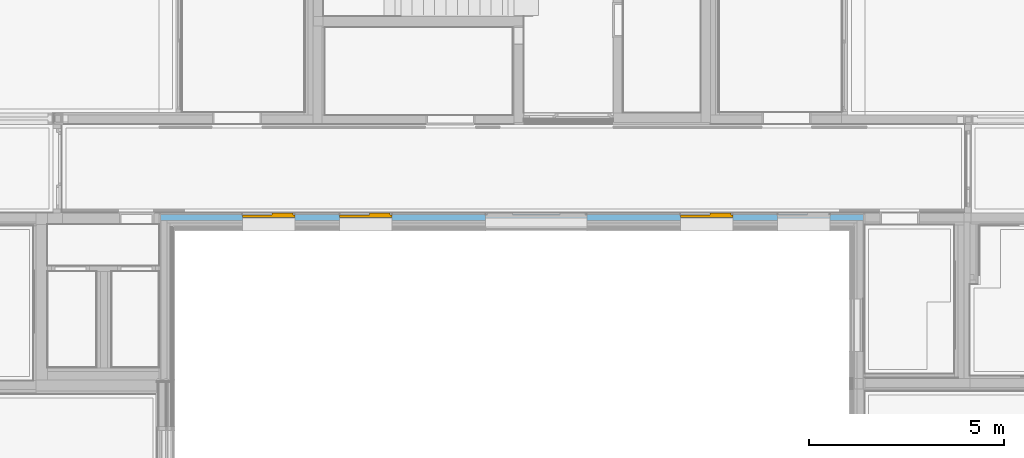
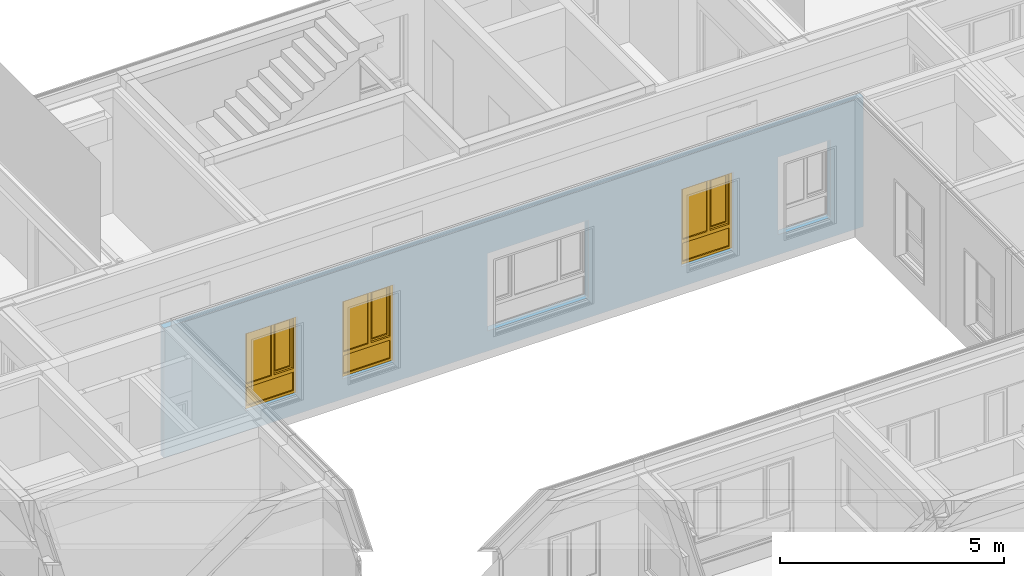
# One storey, part 96 of 222: 3 windows, 5 openings, plus 1 element that does not belong to this part.
"""IFC4 building model written with IfcOpenShell, lengths in metres."""

from ifc_helpers import new_model, entity, si_unit, converted_unit, derived_unit, frame, frame_2d, origin, origin_with_axes, place, context, subcontext, project, spatial, polyline, rectangle, outline, extrude, closed_shell, open_shell, surface_model, source, transform, mapped, material, element, fill, save


model = new_model("IFC4")

# Units and contexts
model_context = context("Model", 3, precision=1e-05, world=origin())
body_context = subcontext(model_context, "Body", "Model", "MODEL_VIEW")
ifc_project = project(units=[si_unit("LENGTHUNIT", "METRE"), si_unit("AREAUNIT", "SQUARE_METRE"), si_unit("VOLUMEUNIT", "CUBIC_METRE"), si_unit("MASSUNIT", "GRAM", prefix="KILO"), converted_unit("PLANEANGLEUNIT", "DEGREE", entity("IfcPlaneAngleMeasure", 0.0174532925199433), si_unit("PLANEANGLEUNIT", "RADIAN"), dimensions=[0, 0, 0, 0, 0, 0, 0]), derived_unit("THERMALTRANSMITTANCEUNIT", [(si_unit("POWERUNIT", "WATT"), 1), (si_unit("THERMODYNAMICTEMPERATUREUNIT", "KELVIN"), -1), (si_unit("LENGTHUNIT", "METRE"), -2)]), derived_unit("VOLUMETRICFLOWRATEUNIT", [(si_unit("LENGTHUNIT", "METRE"), 3), (converted_unit("TIMEUNIT", "hour", entity("IfcTimeMeasure", 3600.0), si_unit("TIMEUNIT", "SECOND"), dimensions=[0, 0, 1, 0, 0, 0, 0]), -1), (si_unit("LENGTHUNIT", "METRE"), -1)])], contexts=[model_context])

# Site, building, storey
site_placement = place(None, origin())
site = spatial("IfcSite", under=ifc_project, at=site_placement, Name="Psychiatrie Neubau Wunstorf", CompositionType="ELEMENT")
building_placement = place(site_placement, origin())
building = spatial("IfcBuilding", under=site, at=building_placement, Name="Neubau H2 Stationsgebäude", CompositionType="ELEMENT")
storey_placement = place(building_placement, frame((0.0, 0.0, 3.6)))
storey = spatial("IfcBuildingStorey", under=building, at=storey_placement, Name="H2 Ebene +1", CompositionType="ELEMENT", Elevation=3.6)

# Wall, openings, windows
ifc_material = material(Name="WA-DL")
wall_placement = place(storey_placement, frame((62.0250000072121, 20.5499980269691, 0.0), z_axis=(0.0, 0.0, 1.0), x_axis=(-1.0, 8.06200289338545e-16, 0.0)))
wall = element("IfcWall", 1, at=wall_placement, inside=storey, material=ifc_material, context=body_context, shape_type="SweptSolid", body=[
    extrude(rectangle(XDim=18.0500000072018, YDim=0.16, at=frame_2d((9.02500000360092, 0.08), x_axis=(1.0, 0.0))), origin_with_axes(), (0.0, 0.0, 1.0), 3.55),
])
opening_1_placement = place(wall_placement, frame((15.9524000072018, 0.159999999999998, 0.55), z_axis=(0.0, -1.0, 0.0), x_axis=(0.0, 0.0, 1.0)))
opening_1 = element("IfcOpeningElement", 2, at=opening_1_placement, cuts=wall, Name="Fensteröffnung", ObjectType="Opening", context=body_context, shape_type="SweptSolid", body=[
    extrude(outline(polyline([(2.115, 1.35), (2.115, 0.0), (0.0, 0.0), (0.0, 1.35), (2.115, 1.35)])), origin_with_axes(), (0.0, 0.0, 1.0), 0.159999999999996),
])
opening_2_placement = place(wall_placement, frame((13.4524000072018, 0.159999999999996, 0.55), z_axis=(0.0, -1.0, 0.0), x_axis=(0.0, 0.0, 1.0)))
opening_2 = element("IfcOpeningElement", 3, at=opening_2_placement, cuts=wall, Name="Fensteröffnung", ObjectType="Opening", context=body_context, shape_type="SweptSolid", body=[
    extrude(outline(polyline([(2.115, 1.35), (2.115, 0.0), (0.0, 0.0), (0.0, 1.35), (2.115, 1.35)])), origin_with_axes(), (0.0, 0.0, 1.0), 0.159999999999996),
])
opening_3_placement = place(wall_placement, frame((4.70240000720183, 0.159999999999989, 0.55), z_axis=(0.0, -1.0, 0.0), x_axis=(0.0, 0.0, 1.0)))
opening_3 = element("IfcOpeningElement", 4, at=opening_3_placement, cuts=wall, Name="Fensteröffnung", ObjectType="Opening", context=body_context, shape_type="SweptSolid", body=[
    extrude(outline(polyline([(2.115, 1.35), (2.115, 0.0), (0.0, 0.0), (0.0, 1.35), (2.115, 1.35)])), origin_with_axes(), (0.0, 0.0, 1.0), 0.159999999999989),
])
opening_4_placement = place(wall_placement, frame((2.20240000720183, 0.159999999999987, 0.55), z_axis=(0.0, -1.0, 0.0), x_axis=(0.0, 0.0, 1.0)))
element("IfcOpeningElement", 5, at=opening_4_placement, cuts=wall, Name="Fensteröffnung", ObjectType="Opening", context=body_context, shape_type="SweptSolid", body=[
    extrude(outline(polyline([(2.115, 1.35), (2.115, 0.0), (0.0, 0.0), (0.0, 1.35), (2.115, 1.35)])), origin_with_axes(), (0.0, 0.0, 1.0), 0.159999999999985),
])
opening_5_placement = place(wall_placement, frame((9.70240000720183, 0.159999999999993, 0.55), z_axis=(0.0, -1.0, 0.0), x_axis=(0.0, 0.0, 1.0)))
element("IfcOpeningElement", 6, at=opening_5_placement, cuts=wall, Name="Fensteröffnung", ObjectType="Opening", context=body_context, shape_type="SweptSolid", body=[
    extrude(outline(polyline([(2.115, 2.6), (2.115, 0.0), (0.0, 0.0), (0.0, 2.6), (2.115, 2.6)])), origin_with_axes(), (0.0, 0.0, 1.0), 0.159999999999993),
])
shared_shape_1 = source(origin_with_axes(), body_context, "Body", "SurfaceModel", [
    surface_model("IfcShellBasedSurfaceModel", [(0.0, 0.0, 2.115), (0.07, 0.0, 2.115), (0.07, 0.0, 0.0), (0.0, 0.0, 0.0), (0.0, 0.0699999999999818, 0.0), (0.07, 0.0699999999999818, 0.0), (0.07, 0.0699999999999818, 2.115), (0.0, 0.0699999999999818, 2.115)], [closed_shell([[[0, 1, 2, 3]], [[4, 5, 6, 7]], [[3, 4, 7, 0]], [[2, 5, 4, 3]], [[1, 6, 5, 2]], [[0, 7, 6, 1]]], orient=[[False], [False], [False], [False], [False], [False]])]),
    surface_model("IfcShellBasedSurfaceModel", [(1.28, 0.0, 2.115), (1.35, 0.0, 2.115), (1.35, 0.0, 0.0), (1.28, 0.0, 0.0), (1.28, 0.0699999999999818, 0.0), (1.35, 0.0699999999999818, 0.0), (1.35, 0.0699999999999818, 2.115), (1.28, 0.0699999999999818, 2.115)], [closed_shell([[[0, 1, 2, 3]], [[4, 5, 6, 7]], [[3, 4, 7, 0]], [[2, 5, 4, 3]], [[1, 6, 5, 2]], [[0, 7, 6, 1]]], orient=[[False], [False], [False], [False], [False], [False]])]),
    surface_model("IfcShellBasedSurfaceModel", [(0.07, 0.0, 0.07), (1.28, 0.0, 0.07), (1.28, 0.0, 0.0), (0.07, 0.0, 0.0), (0.07, 0.0699999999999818, 0.0), (1.28, 0.0699999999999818, 0.0), (1.28, 0.0699999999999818, 0.07), (0.07, 0.0699999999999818, 0.07)], [closed_shell([[[0, 1, 2, 3]], [[4, 5, 6, 7]], [[3, 4, 7, 0]], [[2, 5, 4, 3]], [[1, 6, 5, 2]], [[0, 7, 6, 1]]], orient=[[False], [False], [False], [False], [False], [False]])]),
    surface_model("IfcShellBasedSurfaceModel", [(0.07, 0.0, 2.115), (1.28, 0.0, 2.115), (1.28, 0.0, 2.045), (0.07, 0.0, 2.045), (0.07, 0.0699999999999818, 2.045), (1.28, 0.0699999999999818, 2.045), (1.28, 0.0699999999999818, 2.115), (0.07, 0.0699999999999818, 2.115)], [closed_shell([[[0, 1, 2, 3]], [[4, 5, 6, 7]], [[3, 4, 7, 0]], [[2, 5, 4, 3]], [[1, 6, 5, 2]], [[0, 7, 6, 1]]], orient=[[False], [False], [False], [False], [False], [False]])]),
    surface_model("IfcShellBasedSurfaceModel", [(0.07, 0.0, 0.67), (1.28, 0.0, 0.67), (1.28, 0.0, 0.57), (0.07, 0.0, 0.57), (0.07, 0.0699999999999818, 0.57), (1.28, 0.0699999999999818, 0.57), (1.28, 0.0699999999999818, 0.67), (0.07, 0.0699999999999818, 0.67)], [closed_shell([[[0, 1, 2, 3]], [[4, 5, 6, 7]], [[3, 4, 7, 0]], [[2, 5, 4, 3]], [[1, 6, 5, 2]], [[0, 7, 6, 1]]], orient=[[False], [False], [False], [False], [False], [False]])]),
    surface_model("IfcShellBasedSurfaceModel", [(0.07, 0.0349999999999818, 0.07), (0.07, 0.0349999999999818, 0.57), (1.28, 0.0349999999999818, 0.57), (1.28, 0.0349999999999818, 0.07)], [open_shell([[[0, 1, 2, 3]]], orient=[[False]])]),
    surface_model("IfcShellBasedSurfaceModel", [(0.565699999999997, 0.0, 2.045), (0.635699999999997, 0.0, 2.045), (0.635699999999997, 0.0, 0.67), (0.565699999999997, 0.0, 0.67), (0.565699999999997, 0.0699999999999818, 0.67), (0.635699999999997, 0.0699999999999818, 0.67), (0.635699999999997, 0.0699999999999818, 2.045), (0.565699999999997, 0.0699999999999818, 2.045)], [closed_shell([[[0, 1, 2, 3]], [[4, 5, 6, 7]], [[3, 4, 7, 0]], [[2, 5, 4, 3]], [[1, 6, 5, 2]], [[0, 7, 6, 1]]], orient=[[False], [False], [False], [False], [False], [False]])]),
    surface_model("IfcShellBasedSurfaceModel", [(0.05, -0.0500000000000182, 2.065), (0.12, -0.0500000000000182, 2.065), (0.12, -0.0500000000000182, 0.65), (0.05, -0.0500000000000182, 0.65), (0.05, 0.0199999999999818, 0.65), (0.12, 0.0199999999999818, 0.65), (0.12, 0.0199999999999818, 2.065), (0.05, 0.0199999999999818, 2.065)], [closed_shell([[[0, 1, 2, 3]], [[4, 5, 6, 7]], [[3, 4, 7, 0]], [[2, 5, 4, 3]], [[1, 6, 5, 2]], [[0, 7, 6, 1]]], orient=[[False], [False], [False], [False], [False], [False]])]),
    surface_model("IfcShellBasedSurfaceModel", [(0.515699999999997, -0.0500000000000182, 2.065), (0.585699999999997, -0.0500000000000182, 2.065), (0.585699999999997, -0.0500000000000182, 0.65), (0.515699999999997, -0.0500000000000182, 0.65), (0.515699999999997, 0.0199999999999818, 0.65), (0.585699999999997, 0.0199999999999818, 0.65), (0.585699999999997, 0.0199999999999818, 2.065), (0.515699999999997, 0.0199999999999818, 2.065)], [closed_shell([[[0, 1, 2, 3]], [[4, 5, 6, 7]], [[3, 4, 7, 0]], [[2, 5, 4, 3]], [[1, 6, 5, 2]], [[0, 7, 6, 1]]], orient=[[False], [False], [False], [False], [False], [False]])]),
    surface_model("IfcShellBasedSurfaceModel", [(0.12, -0.0500000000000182, 0.72), (0.515699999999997, -0.0500000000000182, 0.72), (0.515699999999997, -0.0500000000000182, 0.65), (0.12, -0.0500000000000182, 0.65), (0.12, 0.0199999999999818, 0.65), (0.515699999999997, 0.0199999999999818, 0.65), (0.515699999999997, 0.0199999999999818, 0.72), (0.12, 0.0199999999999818, 0.72)], [closed_shell([[[0, 1, 2, 3]], [[4, 5, 6, 7]], [[3, 4, 7, 0]], [[2, 5, 4, 3]], [[1, 6, 5, 2]], [[0, 7, 6, 1]]], orient=[[False], [False], [False], [False], [False], [False]])]),
    surface_model("IfcShellBasedSurfaceModel", [(0.12, -0.0500000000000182, 2.065), (0.515699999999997, -0.0500000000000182, 2.065), (0.515699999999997, -0.0500000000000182, 1.995), (0.12, -0.0500000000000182, 1.995), (0.12, 0.0199999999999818, 1.995), (0.515699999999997, 0.0199999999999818, 1.995), (0.515699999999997, 0.0199999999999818, 2.065), (0.12, 0.0199999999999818, 2.065)], [closed_shell([[[0, 1, 2, 3]], [[4, 5, 6, 7]], [[3, 4, 7, 0]], [[2, 5, 4, 3]], [[1, 6, 5, 2]], [[0, 7, 6, 1]]], orient=[[False], [False], [False], [False], [False], [False]])]),
    surface_model("IfcShellBasedSurfaceModel", [(0.635699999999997, 0.0349999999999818, 0.67), (0.635699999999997, 0.0349999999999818, 2.045), (1.28, 0.0349999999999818, 2.045), (1.28, 0.0349999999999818, 0.67)], [open_shell([[[0, 1, 2, 3]]], orient=[[False]])]),
    surface_model("IfcShellBasedSurfaceModel", [(0.12, -0.0150000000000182, 0.72), (0.12, -0.0150000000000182, 1.995), (0.515699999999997, -0.0150000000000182, 1.995), (0.515699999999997, -0.0150000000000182, 0.72)], [open_shell([[[0, 1, 2, 3]]], orient=[[False]])]),
])
window_1_placement = place(opening_1_placement, frame((0.0, 1.35, 0.145999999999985), z_axis=(1.0, 0.0, 0.0), x_axis=(0.0, -1.0, -8.06200289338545e-16)))
window_1 = element("IfcWindow", 7, at=window_1_placement, inside=storey, Name="Fenster", OverallHeight=2.115, OverallWidth=1.35, PartitioningType="USERDEFINED", PredefinedType="WINDOW", context=body_context, shape_type="MappedRepresentation", body=[
    mapped(shared_shape_1, transform((0.0, 0.0, 0.0), x_axis=(1.0, 0.0, 0.0), y_axis=(0.0, 1.0, 0.0), z_axis=(0.0, 0.0, 1.0), scale=1.0)),
])
fill(opening_1, window_1)
shared_shape_2 = source(origin_with_axes(), body_context, "Body", "SurfaceModel", [
    surface_model("IfcShellBasedSurfaceModel", [(0.0, 0.0, 2.115), (0.07, 0.0, 2.115), (0.07, 0.0, 0.0), (0.0, 0.0, 0.0), (0.0, 0.0699999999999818, 0.0), (0.07, 0.0699999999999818, 0.0), (0.07, 0.0699999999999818, 2.115), (0.0, 0.0699999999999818, 2.115)], [closed_shell([[[0, 1, 2, 3]], [[4, 5, 6, 7]], [[3, 4, 7, 0]], [[2, 5, 4, 3]], [[1, 6, 5, 2]], [[0, 7, 6, 1]]], orient=[[False], [False], [False], [False], [False], [False]])]),
    surface_model("IfcShellBasedSurfaceModel", [(1.28, 0.0, 2.115), (1.35, 0.0, 2.115), (1.35, 0.0, 0.0), (1.28, 0.0, 0.0), (1.28, 0.0699999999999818, 0.0), (1.35, 0.0699999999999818, 0.0), (1.35, 0.0699999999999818, 2.115), (1.28, 0.0699999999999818, 2.115)], [closed_shell([[[0, 1, 2, 3]], [[4, 5, 6, 7]], [[3, 4, 7, 0]], [[2, 5, 4, 3]], [[1, 6, 5, 2]], [[0, 7, 6, 1]]], orient=[[False], [False], [False], [False], [False], [False]])]),
    surface_model("IfcShellBasedSurfaceModel", [(0.07, 0.0, 0.07), (1.28, 0.0, 0.07), (1.28, 0.0, 0.0), (0.07, 0.0, 0.0), (0.07, 0.0699999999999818, 0.0), (1.28, 0.0699999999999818, 0.0), (1.28, 0.0699999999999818, 0.07), (0.07, 0.0699999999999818, 0.07)], [closed_shell([[[0, 1, 2, 3]], [[4, 5, 6, 7]], [[3, 4, 7, 0]], [[2, 5, 4, 3]], [[1, 6, 5, 2]], [[0, 7, 6, 1]]], orient=[[False], [False], [False], [False], [False], [False]])]),
    surface_model("IfcShellBasedSurfaceModel", [(0.07, 0.0, 2.115), (1.28, 0.0, 2.115), (1.28, 0.0, 2.045), (0.07, 0.0, 2.045), (0.07, 0.0699999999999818, 2.045), (1.28, 0.0699999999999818, 2.045), (1.28, 0.0699999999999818, 2.115), (0.07, 0.0699999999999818, 2.115)], [closed_shell([[[0, 1, 2, 3]], [[4, 5, 6, 7]], [[3, 4, 7, 0]], [[2, 5, 4, 3]], [[1, 6, 5, 2]], [[0, 7, 6, 1]]], orient=[[False], [False], [False], [False], [False], [False]])]),
    surface_model("IfcShellBasedSurfaceModel", [(0.07, 0.0, 0.67), (1.28, 0.0, 0.67), (1.28, 0.0, 0.57), (0.07, 0.0, 0.57), (0.07, 0.0699999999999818, 0.57), (1.28, 0.0699999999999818, 0.57), (1.28, 0.0699999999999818, 0.67), (0.07, 0.0699999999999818, 0.67)], [closed_shell([[[0, 1, 2, 3]], [[4, 5, 6, 7]], [[3, 4, 7, 0]], [[2, 5, 4, 3]], [[1, 6, 5, 2]], [[0, 7, 6, 1]]], orient=[[False], [False], [False], [False], [False], [False]])]),
    surface_model("IfcShellBasedSurfaceModel", [(0.07, 0.0349999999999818, 0.07), (0.07, 0.0349999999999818, 0.57), (1.28, 0.0349999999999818, 0.57), (1.28, 0.0349999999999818, 0.07)], [open_shell([[[0, 1, 2, 3]]], orient=[[False]])]),
    surface_model("IfcShellBasedSurfaceModel", [(0.565699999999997, 0.0, 2.045), (0.635699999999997, 0.0, 2.045), (0.635699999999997, 0.0, 0.67), (0.565699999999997, 0.0, 0.67), (0.565699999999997, 0.0699999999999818, 0.67), (0.635699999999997, 0.0699999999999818, 0.67), (0.635699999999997, 0.0699999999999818, 2.045), (0.565699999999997, 0.0699999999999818, 2.045)], [closed_shell([[[0, 1, 2, 3]], [[4, 5, 6, 7]], [[3, 4, 7, 0]], [[2, 5, 4, 3]], [[1, 6, 5, 2]], [[0, 7, 6, 1]]], orient=[[False], [False], [False], [False], [False], [False]])]),
    surface_model("IfcShellBasedSurfaceModel", [(0.05, -0.0500000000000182, 2.065), (0.12, -0.0500000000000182, 2.065), (0.12, -0.0500000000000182, 0.65), (0.05, -0.0500000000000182, 0.65), (0.05, 0.0199999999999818, 0.65), (0.12, 0.0199999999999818, 0.65), (0.12, 0.0199999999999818, 2.065), (0.05, 0.0199999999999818, 2.065)], [closed_shell([[[0, 1, 2, 3]], [[4, 5, 6, 7]], [[3, 4, 7, 0]], [[2, 5, 4, 3]], [[1, 6, 5, 2]], [[0, 7, 6, 1]]], orient=[[False], [False], [False], [False], [False], [False]])]),
    surface_model("IfcShellBasedSurfaceModel", [(0.515699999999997, -0.0500000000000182, 2.065), (0.585699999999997, -0.0500000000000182, 2.065), (0.585699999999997, -0.0500000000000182, 0.65), (0.515699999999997, -0.0500000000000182, 0.65), (0.515699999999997, 0.0199999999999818, 0.65), (0.585699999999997, 0.0199999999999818, 0.65), (0.585699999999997, 0.0199999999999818, 2.065), (0.515699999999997, 0.0199999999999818, 2.065)], [closed_shell([[[0, 1, 2, 3]], [[4, 5, 6, 7]], [[3, 4, 7, 0]], [[2, 5, 4, 3]], [[1, 6, 5, 2]], [[0, 7, 6, 1]]], orient=[[False], [False], [False], [False], [False], [False]])]),
    surface_model("IfcShellBasedSurfaceModel", [(0.12, -0.0500000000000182, 0.72), (0.515699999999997, -0.0500000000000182, 0.72), (0.515699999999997, -0.0500000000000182, 0.65), (0.12, -0.0500000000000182, 0.65), (0.12, 0.0199999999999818, 0.65), (0.515699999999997, 0.0199999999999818, 0.65), (0.515699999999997, 0.0199999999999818, 0.72), (0.12, 0.0199999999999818, 0.72)], [closed_shell([[[0, 1, 2, 3]], [[4, 5, 6, 7]], [[3, 4, 7, 0]], [[2, 5, 4, 3]], [[1, 6, 5, 2]], [[0, 7, 6, 1]]], orient=[[False], [False], [False], [False], [False], [False]])]),
    surface_model("IfcShellBasedSurfaceModel", [(0.12, -0.0500000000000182, 2.065), (0.515699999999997, -0.0500000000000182, 2.065), (0.515699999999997, -0.0500000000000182, 1.995), (0.12, -0.0500000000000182, 1.995), (0.12, 0.0199999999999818, 1.995), (0.515699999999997, 0.0199999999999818, 1.995), (0.515699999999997, 0.0199999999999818, 2.065), (0.12, 0.0199999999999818, 2.065)], [closed_shell([[[0, 1, 2, 3]], [[4, 5, 6, 7]], [[3, 4, 7, 0]], [[2, 5, 4, 3]], [[1, 6, 5, 2]], [[0, 7, 6, 1]]], orient=[[False], [False], [False], [False], [False], [False]])]),
    surface_model("IfcShellBasedSurfaceModel", [(0.635699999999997, 0.0349999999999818, 0.67), (0.635699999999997, 0.0349999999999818, 2.045), (1.28, 0.0349999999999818, 2.045), (1.28, 0.0349999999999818, 0.67)], [open_shell([[[0, 1, 2, 3]]], orient=[[False]])]),
    surface_model("IfcShellBasedSurfaceModel", [(0.12, -0.0150000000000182, 0.72), (0.12, -0.0150000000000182, 1.995), (0.515699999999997, -0.0150000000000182, 1.995), (0.515699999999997, -0.0150000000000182, 0.72)], [open_shell([[[0, 1, 2, 3]]], orient=[[False]])]),
])
window_2_placement = place(opening_2_placement, frame((0.0, 1.35, 0.145999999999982), z_axis=(1.0, 0.0, 0.0), x_axis=(0.0, -1.0, -8.06200289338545e-16)))
window_2 = element("IfcWindow", 8, at=window_2_placement, inside=storey, Name="Fenster", OverallHeight=2.115, OverallWidth=1.35, PartitioningType="USERDEFINED", PredefinedType="WINDOW", context=body_context, shape_type="MappedRepresentation", body=[
    mapped(shared_shape_2, transform((0.0, 0.0, 0.0), x_axis=(1.0, 0.0, 0.0), y_axis=(0.0, 1.0, 0.0), z_axis=(0.0, 0.0, 1.0), scale=1.0)),
])
fill(opening_2, window_2)
shared_shape_3 = source(origin_with_axes(), body_context, "Body", "SurfaceModel", [
    surface_model("IfcShellBasedSurfaceModel", [(0.0, 0.0, 2.115), (0.07, 0.0, 2.115), (0.07, 0.0, 0.0), (0.0, 0.0, 0.0), (0.0, 0.0699999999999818, 0.0), (0.07, 0.0699999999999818, 0.0), (0.07, 0.0699999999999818, 2.115), (0.0, 0.0699999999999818, 2.115)], [closed_shell([[[0, 1, 2, 3]], [[4, 5, 6, 7]], [[3, 4, 7, 0]], [[2, 5, 4, 3]], [[1, 6, 5, 2]], [[0, 7, 6, 1]]], orient=[[False], [False], [False], [False], [False], [False]])]),
    surface_model("IfcShellBasedSurfaceModel", [(1.28, 0.0, 2.115), (1.35, 0.0, 2.115), (1.35, 0.0, 0.0), (1.28, 0.0, 0.0), (1.28, 0.0699999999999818, 0.0), (1.35, 0.0699999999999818, 0.0), (1.35, 0.0699999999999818, 2.115), (1.28, 0.0699999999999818, 2.115)], [closed_shell([[[0, 1, 2, 3]], [[4, 5, 6, 7]], [[3, 4, 7, 0]], [[2, 5, 4, 3]], [[1, 6, 5, 2]], [[0, 7, 6, 1]]], orient=[[False], [False], [False], [False], [False], [False]])]),
    surface_model("IfcShellBasedSurfaceModel", [(0.07, 0.0, 0.07), (1.28, 0.0, 0.07), (1.28, 0.0, 0.0), (0.07, 0.0, 0.0), (0.07, 0.0699999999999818, 0.0), (1.28, 0.0699999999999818, 0.0), (1.28, 0.0699999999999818, 0.07), (0.07, 0.0699999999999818, 0.07)], [closed_shell([[[0, 1, 2, 3]], [[4, 5, 6, 7]], [[3, 4, 7, 0]], [[2, 5, 4, 3]], [[1, 6, 5, 2]], [[0, 7, 6, 1]]], orient=[[False], [False], [False], [False], [False], [False]])]),
    surface_model("IfcShellBasedSurfaceModel", [(0.07, 0.0, 2.115), (1.28, 0.0, 2.115), (1.28, 0.0, 2.045), (0.07, 0.0, 2.045), (0.07, 0.0699999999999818, 2.045), (1.28, 0.0699999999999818, 2.045), (1.28, 0.0699999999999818, 2.115), (0.07, 0.0699999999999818, 2.115)], [closed_shell([[[0, 1, 2, 3]], [[4, 5, 6, 7]], [[3, 4, 7, 0]], [[2, 5, 4, 3]], [[1, 6, 5, 2]], [[0, 7, 6, 1]]], orient=[[False], [False], [False], [False], [False], [False]])]),
    surface_model("IfcShellBasedSurfaceModel", [(0.07, 0.0, 0.67), (1.28, 0.0, 0.67), (1.28, 0.0, 0.57), (0.07, 0.0, 0.57), (0.07, 0.0699999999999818, 0.57), (1.28, 0.0699999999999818, 0.57), (1.28, 0.0699999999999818, 0.67), (0.07, 0.0699999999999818, 0.67)], [closed_shell([[[0, 1, 2, 3]], [[4, 5, 6, 7]], [[3, 4, 7, 0]], [[2, 5, 4, 3]], [[1, 6, 5, 2]], [[0, 7, 6, 1]]], orient=[[False], [False], [False], [False], [False], [False]])]),
    surface_model("IfcShellBasedSurfaceModel", [(0.07, 0.0349999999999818, 0.07), (0.07, 0.0349999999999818, 0.57), (1.28, 0.0349999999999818, 0.57), (1.28, 0.0349999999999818, 0.07)], [open_shell([[[0, 1, 2, 3]]], orient=[[False]])]),
    surface_model("IfcShellBasedSurfaceModel", [(0.565699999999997, 0.0, 2.045), (0.635699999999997, 0.0, 2.045), (0.635699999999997, 0.0, 0.67), (0.565699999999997, 0.0, 0.67), (0.565699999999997, 0.0699999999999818, 0.67), (0.635699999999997, 0.0699999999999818, 0.67), (0.635699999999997, 0.0699999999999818, 2.045), (0.565699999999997, 0.0699999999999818, 2.045)], [closed_shell([[[0, 1, 2, 3]], [[4, 5, 6, 7]], [[3, 4, 7, 0]], [[2, 5, 4, 3]], [[1, 6, 5, 2]], [[0, 7, 6, 1]]], orient=[[False], [False], [False], [False], [False], [False]])]),
    surface_model("IfcShellBasedSurfaceModel", [(0.05, -0.0500000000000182, 2.065), (0.12, -0.0500000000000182, 2.065), (0.12, -0.0500000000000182, 0.65), (0.05, -0.0500000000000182, 0.65), (0.05, 0.0199999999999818, 0.65), (0.12, 0.0199999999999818, 0.65), (0.12, 0.0199999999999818, 2.065), (0.05, 0.0199999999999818, 2.065)], [closed_shell([[[0, 1, 2, 3]], [[4, 5, 6, 7]], [[3, 4, 7, 0]], [[2, 5, 4, 3]], [[1, 6, 5, 2]], [[0, 7, 6, 1]]], orient=[[False], [False], [False], [False], [False], [False]])]),
    surface_model("IfcShellBasedSurfaceModel", [(0.515699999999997, -0.0500000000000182, 2.065), (0.585699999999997, -0.0500000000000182, 2.065), (0.585699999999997, -0.0500000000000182, 0.65), (0.515699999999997, -0.0500000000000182, 0.65), (0.515699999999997, 0.0199999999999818, 0.65), (0.585699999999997, 0.0199999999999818, 0.65), (0.585699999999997, 0.0199999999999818, 2.065), (0.515699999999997, 0.0199999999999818, 2.065)], [closed_shell([[[0, 1, 2, 3]], [[4, 5, 6, 7]], [[3, 4, 7, 0]], [[2, 5, 4, 3]], [[1, 6, 5, 2]], [[0, 7, 6, 1]]], orient=[[False], [False], [False], [False], [False], [False]])]),
    surface_model("IfcShellBasedSurfaceModel", [(0.12, -0.0500000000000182, 0.72), (0.515699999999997, -0.0500000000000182, 0.72), (0.515699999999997, -0.0500000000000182, 0.65), (0.12, -0.0500000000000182, 0.65), (0.12, 0.0199999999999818, 0.65), (0.515699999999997, 0.0199999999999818, 0.65), (0.515699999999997, 0.0199999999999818, 0.72), (0.12, 0.0199999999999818, 0.72)], [closed_shell([[[0, 1, 2, 3]], [[4, 5, 6, 7]], [[3, 4, 7, 0]], [[2, 5, 4, 3]], [[1, 6, 5, 2]], [[0, 7, 6, 1]]], orient=[[False], [False], [False], [False], [False], [False]])]),
    surface_model("IfcShellBasedSurfaceModel", [(0.12, -0.0500000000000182, 2.065), (0.515699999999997, -0.0500000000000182, 2.065), (0.515699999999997, -0.0500000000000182, 1.995), (0.12, -0.0500000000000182, 1.995), (0.12, 0.0199999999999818, 1.995), (0.515699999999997, 0.0199999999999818, 1.995), (0.515699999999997, 0.0199999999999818, 2.065), (0.12, 0.0199999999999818, 2.065)], [closed_shell([[[0, 1, 2, 3]], [[4, 5, 6, 7]], [[3, 4, 7, 0]], [[2, 5, 4, 3]], [[1, 6, 5, 2]], [[0, 7, 6, 1]]], orient=[[False], [False], [False], [False], [False], [False]])]),
    surface_model("IfcShellBasedSurfaceModel", [(0.635699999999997, 0.0349999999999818, 0.67), (0.635699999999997, 0.0349999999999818, 2.045), (1.28, 0.0349999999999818, 2.045), (1.28, 0.0349999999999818, 0.67)], [open_shell([[[0, 1, 2, 3]]], orient=[[False]])]),
    surface_model("IfcShellBasedSurfaceModel", [(0.12, -0.0150000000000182, 0.72), (0.12, -0.0150000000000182, 1.995), (0.515699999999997, -0.0150000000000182, 1.995), (0.515699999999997, -0.0150000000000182, 0.72)], [open_shell([[[0, 1, 2, 3]]], orient=[[False]])]),
])
window_3_placement = place(opening_3_placement, frame((0.0, 1.35, 0.145999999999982), z_axis=(1.0, 0.0, 0.0), x_axis=(0.0, -1.0, -8.06200289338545e-16)))
window_3 = element("IfcWindow", 9, at=window_3_placement, inside=storey, Name="Fenster", OverallHeight=2.115, OverallWidth=1.35, PartitioningType="USERDEFINED", PredefinedType="WINDOW", context=body_context, shape_type="MappedRepresentation", body=[
    mapped(shared_shape_3, transform((0.0, 0.0, 0.0), x_axis=(1.0, 0.0, 0.0), y_axis=(0.0, 1.0, 0.0), z_axis=(0.0, 0.0, 1.0), scale=1.0)),
])
fill(opening_3, window_3)

save(model, "model.ifc")
